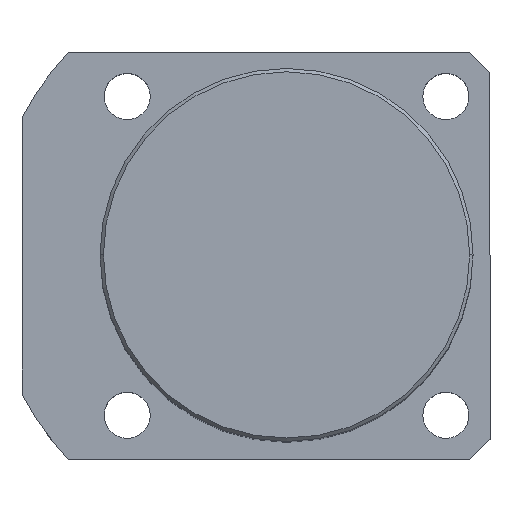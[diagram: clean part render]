
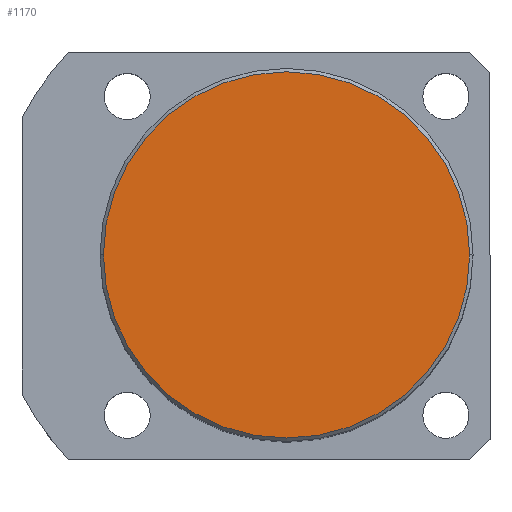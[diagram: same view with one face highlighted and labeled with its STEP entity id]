
A CAD part, top view. The second image highlights one B-rep face of the part: STEP entity #1170.
In plain terms, the highlighted planar face has unit normal (0, 0, 1).
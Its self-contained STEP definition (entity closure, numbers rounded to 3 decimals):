
#184 = FACE_OUTER_BOUND ( 'NONE', #1689, .T. ) ;
#186 = VERTEX_POINT ( 'NONE', #1132 ) ;
#190 = EDGE_CURVE ( 'NONE', #714, #186, #824, .T. ) ;
#218 = DIRECTION ( 'NONE',  ( 0., 0., 1. ) ) ;
#381 = DIRECTION ( 'NONE',  ( 1., 0., 0. ) ) ;
#398 = EDGE_CURVE ( 'NONE', #186, #714, #847, .T. ) ;
#591 = AXIS2_PLACEMENT_3D ( 'NONE', #1224, #218, #381 ) ;
#609 = AXIS2_PLACEMENT_3D ( 'NONE', #1550, #1823, #859 ) ;
#714 = VERTEX_POINT ( 'NONE', #1286 ) ;
#779 = PLANE ( 'NONE',  #591 ) ;
#824 = CIRCLE ( 'NONE', #609, 27. ) ;
#847 = CIRCLE ( 'NONE', #941, 27. ) ;
#859 = DIRECTION ( 'NONE',  ( 1., 0., 0. ) ) ;
#941 = AXIS2_PLACEMENT_3D ( 'NONE', #1237, #1649, #1789 ) ;
#1132 = CARTESIAN_POINT ( 'NONE',  ( 27., 0., 90. ) ) ;
#1170 = ADVANCED_FACE ( 'NONE', ( #184 ), #779, .T. ) ;
#1224 = CARTESIAN_POINT ( 'NONE',  ( 0., 0., 90. ) ) ;
#1237 = CARTESIAN_POINT ( 'NONE',  ( 0., 0., 90. ) ) ;
#1286 = CARTESIAN_POINT ( 'NONE',  ( -27., 0., 90. ) ) ;
#1456 = ORIENTED_EDGE ( 'NONE', *, *, #398, .T. ) ;
#1550 = CARTESIAN_POINT ( 'NONE',  ( 0., 0., 90. ) ) ;
#1649 = DIRECTION ( 'NONE',  ( 0., 0., 1. ) ) ;
#1689 = EDGE_LOOP ( 'NONE', ( #1697, #1456 ) ) ;
#1697 = ORIENTED_EDGE ( 'NONE', *, *, #190, .T. ) ;
#1789 = DIRECTION ( 'NONE',  ( 1., 0., 0. ) ) ;
#1823 = DIRECTION ( 'NONE',  ( 0., 0., 1. ) ) ;
